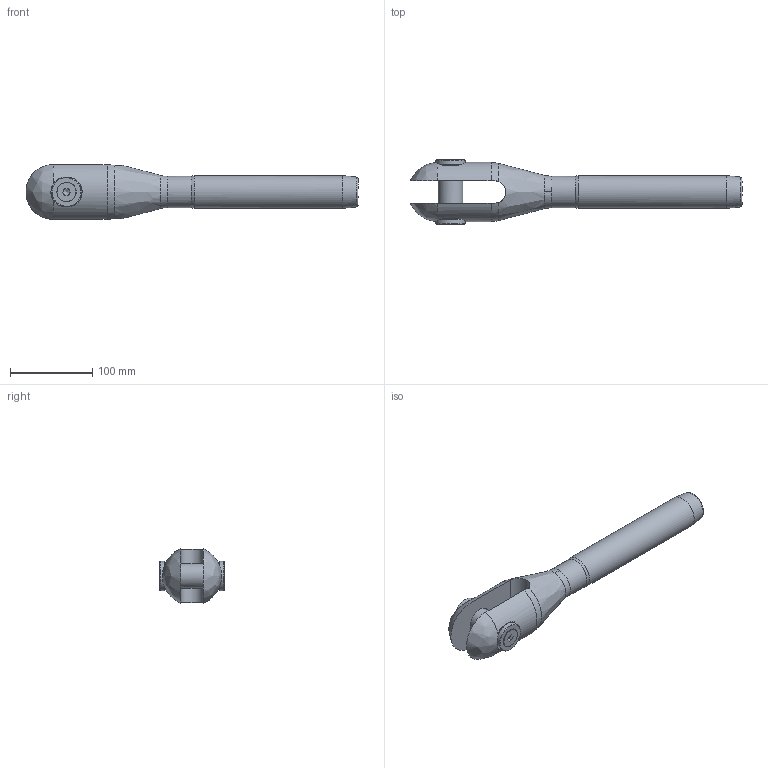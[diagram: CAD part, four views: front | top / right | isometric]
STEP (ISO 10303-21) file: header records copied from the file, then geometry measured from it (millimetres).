
FILE_DESCRIPTION(/* description */ (''),/* implementation_level */ '2;1');
FILE_NAME(/* name */ 'MAC 22_42CrMo4',/* time_stamp */ '2023-05-23T16:55:17+02:00',/* author */ (''),/* organization */ (''),/* preprocessor_version */ 'ST-DEVELOPER v16.5',/* originating_system */ 'Rhino 7.22',/* authorisation */ '');
FILE_SCHEMA (('CONFIG_CONTROL_DESIGN'));
Length unit declared in the file: millimetre
Products named in the file (1): Document
Bounding box: 404.31 x 80 x 66.75 mm (x, y, z)
Volume: 650597.1 mm3; surface area: 92129.2 mm2
Topology: 6 solids, 6 shells, 75 faces, 210 edges, 145 vertices
Faces by surface type: plane 29, bspline 24, cylinder 22
Full cylindrical faces by diameter (mm): 10.106 x2, 12 x2, 12.5 x2, 23.12 x2, 30 x1, 32 x2, 36 x2, 38.1 x1, 40 x1
Entity records: 3138 total; most frequent: CARTESIAN_POINT 1791, ORIENTED_EDGE 412, EDGE_CURVE 206, VERTEX_POINT 145, EDGE_LOOP 85, B_SPLINE_CURVE_WITH_KNOTS 84, ADVANCED_FACE 75, FACE_OUTER_BOUND 75
